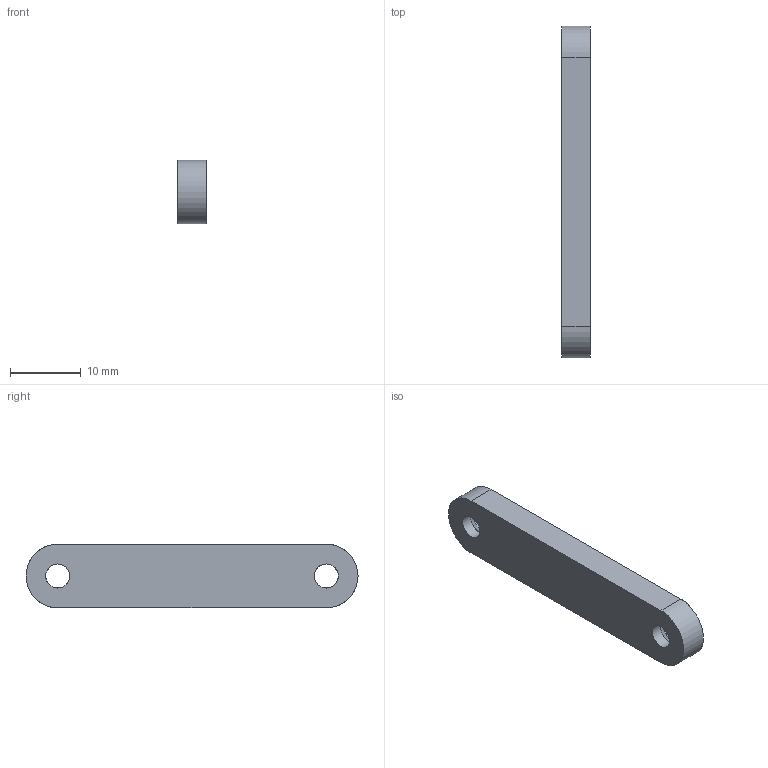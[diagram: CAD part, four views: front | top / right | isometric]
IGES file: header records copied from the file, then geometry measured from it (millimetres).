
Global section: file name: C:\Users\gehrichcr\Documents\1 Drive Backup\Practice\Inspire\V1.5\IGES\Frame 38mm Strut.igs; native system: NX V8.5; preprocessor: SIEMENS PLM Software NX 8.5; date: 20150608.121352; units: millimetre
Bounding box: 4 x 47 x 9 mm (x, y, z)
Surface area: 1269.7 mm2 (no closed solid volume)
Topology: 0 solids, 0 shells, 14 faces, 112 edges, 108 vertices
Faces by surface type: bspline 14
